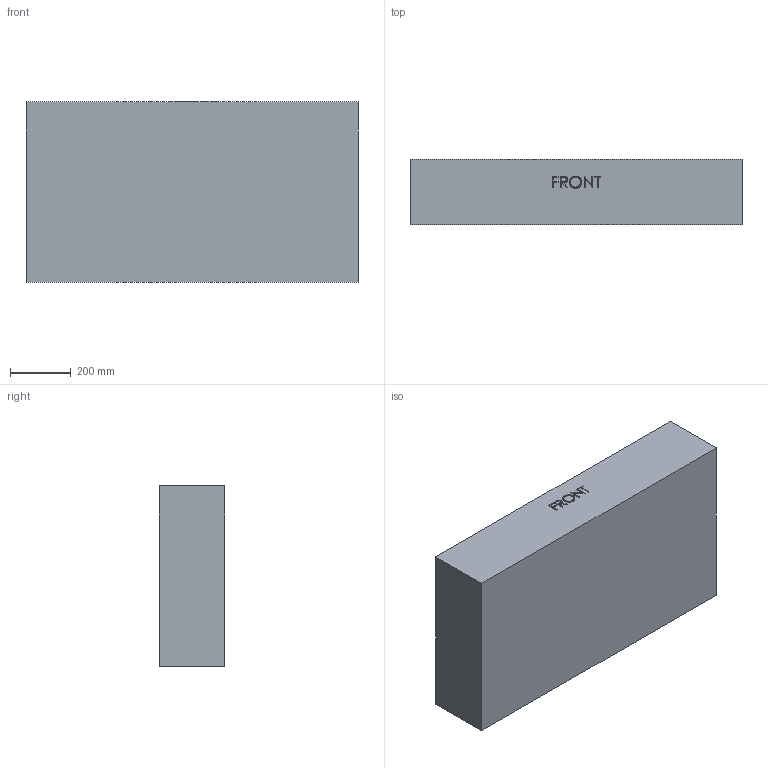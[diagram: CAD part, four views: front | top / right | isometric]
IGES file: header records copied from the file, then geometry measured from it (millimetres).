
Start section: SolidWorks IGES file using analytic representation for surfaces
Global section: file name: C:\Documents and Settings\jgesicki\Desktop\1780\1780-CASE-BOT.IGS; native system: SolidWorks 2006 by SolidWorks Corporation; preprocessor: SolidWorks 2006 by SolidWorks Corporation; author: jgesicki; date: 070228.141335; units: inch
Bounding box: 1088.71 x 213.36 x 592.14 mm (x, y, z)
Surface area: 2598008.7 mm2 (no closed solid volume)
Topology: 0 solids, 0 shells, 491 faces, 5356 edges, 5350 vertices
Faces by surface type: bspline 294, revolution 197
